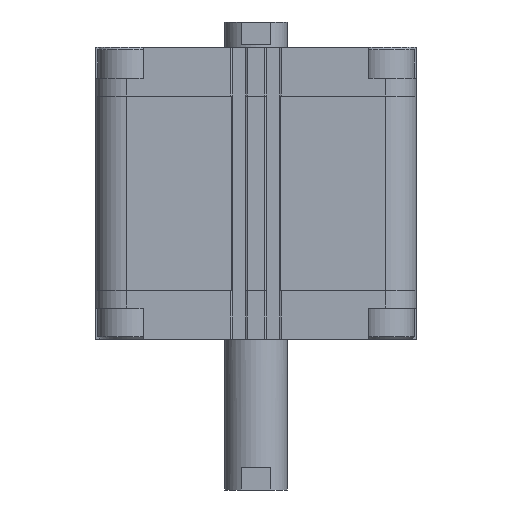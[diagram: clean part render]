
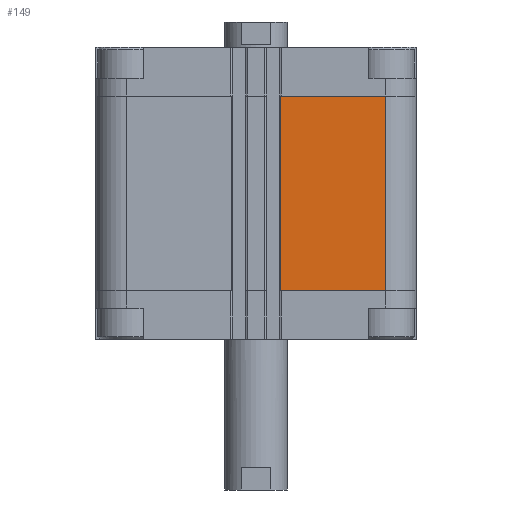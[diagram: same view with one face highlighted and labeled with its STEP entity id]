
A CAD part, front view. The second image highlights one B-rep face of the part: STEP entity #149.
In plain terms, the highlighted planar face has unit normal (0, -1, 0).
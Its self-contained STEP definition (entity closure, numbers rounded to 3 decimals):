
#149 = ADVANCED_FACE ( 'NONE', ( #15185 ), #5090, .T. ) ;
#1117 = ORIENTED_EDGE ( 'NONE', *, *, #2661, .T. ) ;
#1188 = LINE ( 'NONE', #9588, #3739 ) ;
#1790 = VERTEX_POINT ( 'NONE', #9892 ) ;
#2175 = ORIENTED_EDGE ( 'NONE', *, *, #17220, .F. ) ;
#2661 = EDGE_CURVE ( 'NONE', #1790, #7346, #10276, .T. ) ;
#2883 = CARTESIAN_POINT ( 'NONE',  ( 9.95, -64., -97. ) ) ;
#2915 = DIRECTION ( 'NONE',  ( 1., 0., 0. ) ) ;
#2965 = VECTOR ( 'NONE', #17610, 1000. ) ;
#3053 = VERTEX_POINT ( 'NONE', #3904 ) ;
#3170 = LINE ( 'NONE', #19496, #12348 ) ;
#3739 = VECTOR ( 'NONE', #2915, 1000. ) ;
#3904 = CARTESIAN_POINT ( 'NONE',  ( 9.95, -64., -19.5 ) ) ;
#4519 = LINE ( 'NONE', #2883, #2965 ) ;
#4795 = DIRECTION ( 'NONE',  ( 0., 0., 1. ) ) ;
#5090 = PLANE ( 'NONE',  #5103 ) ;
#5103 = AXIS2_PLACEMENT_3D ( 'NONE', #8425, #14968, #6811 ) ;
#6267 = EDGE_LOOP ( 'NONE', ( #9653, #2175, #1117, #14722 ) ) ;
#6811 = DIRECTION ( 'NONE',  ( -1., 0., 0. ) ) ;
#7346 = VERTEX_POINT ( 'NONE', #16989 ) ;
#8385 = EDGE_CURVE ( 'NONE', #7346, #20044, #3170, .T. ) ;
#8425 = CARTESIAN_POINT ( 'NONE',  ( 9.95, -64., -97. ) ) ;
#9588 = CARTESIAN_POINT ( 'NONE',  ( 9.95, -64., -19.5 ) ) ;
#9653 = ORIENTED_EDGE ( 'NONE', *, *, #20813, .F. ) ;
#9892 = CARTESIAN_POINT ( 'NONE',  ( 9.95, -64., -97. ) ) ;
#10276 = LINE ( 'NONE', #20359, #13120 ) ;
#11250 = CARTESIAN_POINT ( 'NONE',  ( 51.5, -64., -19.5 ) ) ;
#12348 = VECTOR ( 'NONE', #4795, 1000. ) ;
#13120 = VECTOR ( 'NONE', #13617, 1000. ) ;
#13617 = DIRECTION ( 'NONE',  ( 1., 0., 0. ) ) ;
#14722 = ORIENTED_EDGE ( 'NONE', *, *, #8385, .T. ) ;
#14968 = DIRECTION ( 'NONE',  ( 0., -1., 0. ) ) ;
#15185 = FACE_OUTER_BOUND ( 'NONE', #6267, .T. ) ;
#16989 = CARTESIAN_POINT ( 'NONE',  ( 51.5, -64., -97. ) ) ;
#17220 = EDGE_CURVE ( 'NONE', #1790, #3053, #4519, .T. ) ;
#17610 = DIRECTION ( 'NONE',  ( 0., 0., 1. ) ) ;
#19496 = CARTESIAN_POINT ( 'NONE',  ( 51.5, -64., -97. ) ) ;
#20044 = VERTEX_POINT ( 'NONE', #11250 ) ;
#20359 = CARTESIAN_POINT ( 'NONE',  ( 9.95, -64., -97. ) ) ;
#20813 = EDGE_CURVE ( 'NONE', #3053, #20044, #1188, .T. ) ;
